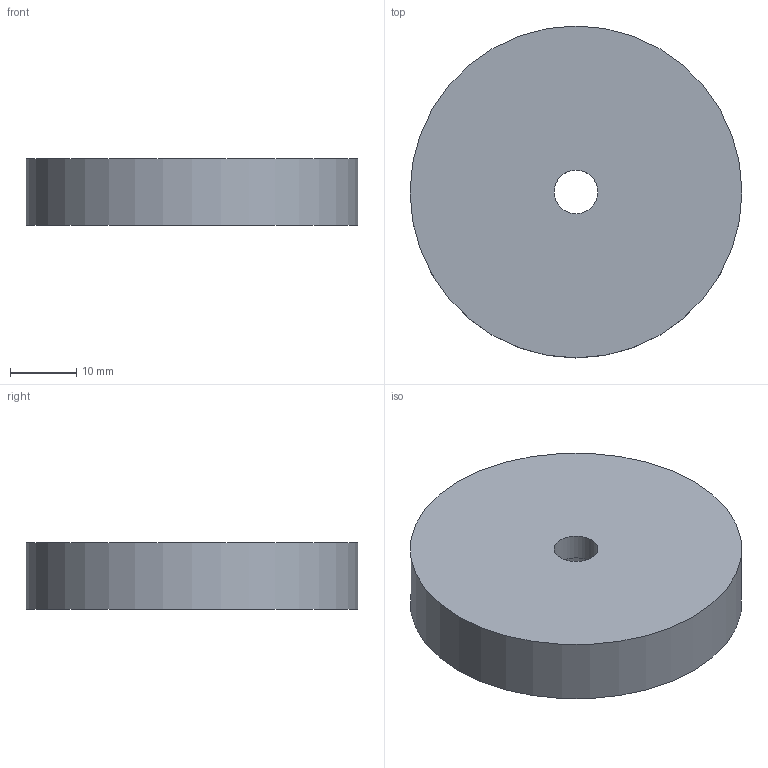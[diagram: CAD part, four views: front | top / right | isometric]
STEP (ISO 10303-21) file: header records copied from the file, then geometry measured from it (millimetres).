
FILE_DESCRIPTION(('Open CASCADE Model'),'2;1');
FILE_NAME('Open CASCADE Shape Model','2026-10-21T12:47:56',('Author'),( 'Open CASCADE'),'Open CASCADE STEP processor 7.9','Open CASCADE 7.9' ,'Unknown');
FILE_SCHEMA(('AUTOMOTIVE_DESIGN { 1 0 10303 214 1 1 1 1 }'));
Length unit declared in the file: millimetre
Products named in the file (1): Open CASCADE STEP translator 7.9 3
Bounding box: 50 x 50 x 10 mm (x, y, z)
Volume: 18978.6 mm3; surface area: 5710.2 mm2
Topology: 1 solids, 1 shells, 6 faces, 9 edges, 6 vertices
Faces by surface type: cylinder 3, plane 3
Full cylindrical faces by diameter (mm): 6.6 x1, 10.5 x1, 50 x1
Entity records: 270 total; most frequent: DIRECTION 47, CARTESIAN_POINT 40, ORIENTED_EDGE 18, PCURVE 18, DEFINITIONAL_REPRESENTATION 18, LINE 15, VECTOR 15, AXIS2_PLACEMENT_3D 13
